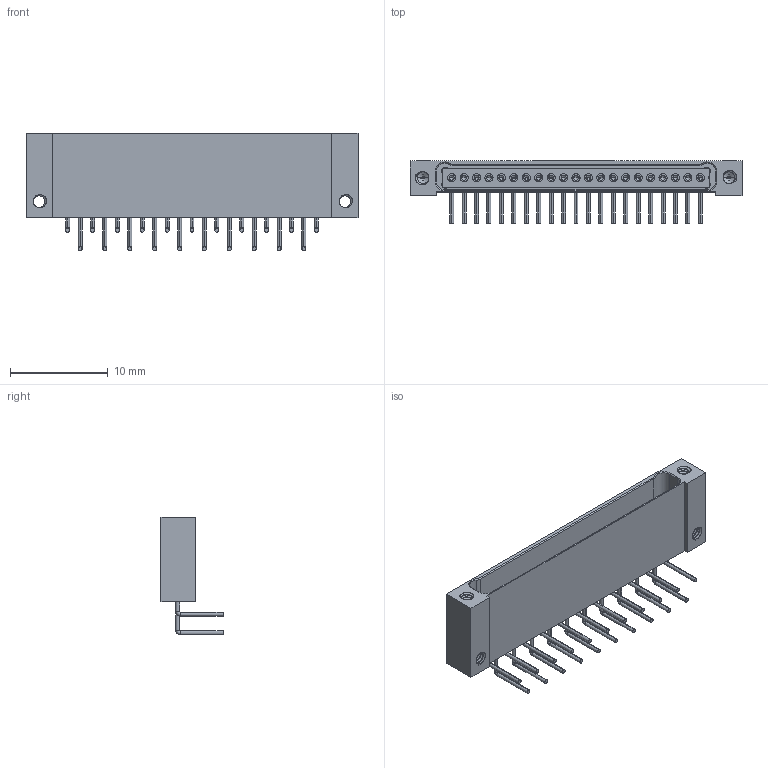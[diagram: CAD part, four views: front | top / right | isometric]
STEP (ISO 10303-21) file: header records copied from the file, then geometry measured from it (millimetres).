
FILE_DESCRIPTION (( 'STEP AP214' ), '1' );
FILE_NAME ('A92004-021 REV A.STEP', '2021-02-26T20:21:41', ( '' ), ( '' ), 'SwSTEP 2.0', 'SolidWorks 2019', '' );
FILE_SCHEMA (( 'AUTOMOTIVE_DESIGN' ));
Length unit declared in the file: inch
Products named in the file (1): A92004-021 REV A
Bounding box: 33.91 x 6.36 x 12.01 mm (x, y, z)
Volume: 586.5 mm3; surface area: 2145.3 mm2
Topology: 1 solids, 2 shells, 734 faces, 1780 edges, 1107 vertices
Faces by surface type: cylinder 322, plane 216, torus 85, bspline 59, cone 52
Entity records: 39992 total; most frequent: CARTESIAN_POINT 13951, ORIENTED_EDGE 3476, DIRECTION 3355, EDGE_CURVE 1738, AXIS2_PLACEMENT_3D 1273, VERTEX_POINT 1107, EDGE_LOOP 849, VECTOR 809
